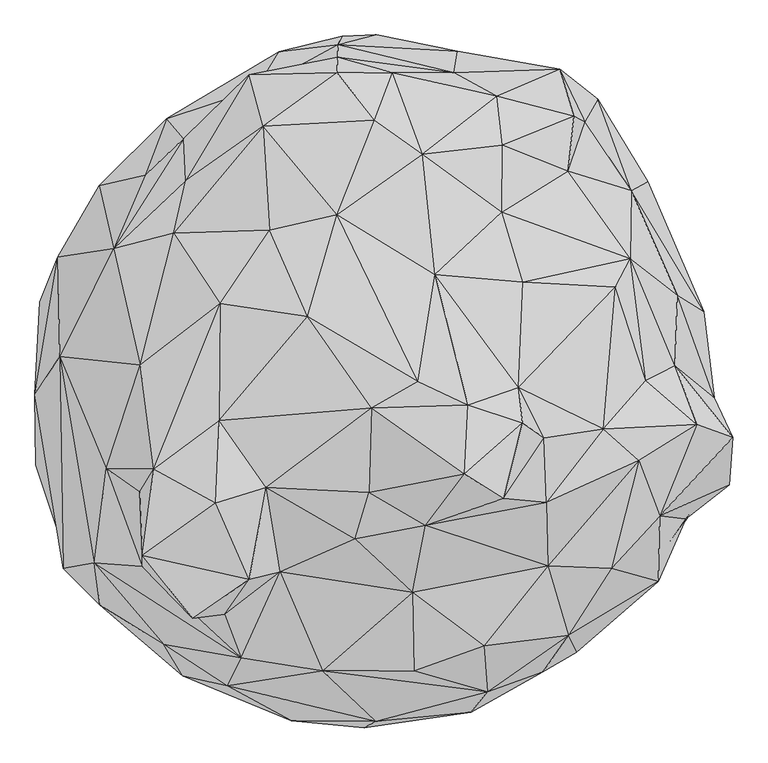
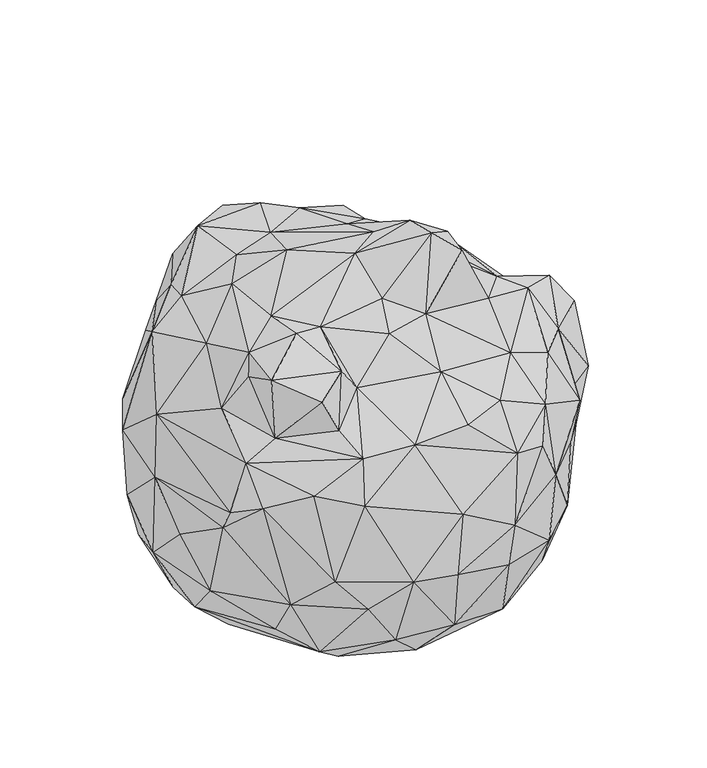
"""IFC4 building model written with IfcOpenShell, lengths in millimetres: geographic element geometry, Enscape AssetDefinition - Arbusto bergamota : Enscape AssetDefinition - Arbusto bergamota."""

from ifc_helpers import new_model, si_unit, origin, place, context, project, spatial, faceted_brep, source, transform, mapped, element, save


def geographic_element_441a0461(model_context):
    return source(origin(), model_context, "Body", "Brep", [
        faceted_brep([(-105.2601561, -28.5693128, 89.1784206), (351.4309525, -283.6348712, 89.1784206), (124.0314916, -560.6466532, 89.1784206), (318.775028, -494.7021008, 89.1784206), (547.9586124, -113.5061756, 124.9610558), (32.5179771, 87.5952095, 108.2453132), (492.4326539, 51.9201756, 119.3657815), (306.9058061, 164.5369679, 148.7726867), (-451.853931, -222.9770869, 89.1784206), (-323.3103454, 6.528866, 117.8776622), (-253.9109588, 231.2449813, 173.3419895), (96.4493379, 502.3676753, 287.2714102), (398.3728886, 302.4244905, 198.6569166), (528.7880898, 162.4510288, 188.4535253), (217.9729491, 468.8835442, 276.5121758), (433.9434206, 378.8322508, 256.6585839), (582.9179287, 137.1124238, 243.9075857), (553.1645417, 319.1808462, 477.6988328), (387.2309923, 488.0084693, 355.2014828), (453.6036849, 481.6354215, 459.8508179), (208.5562497, 567.3871636, 392.2279775), (519.8549628, 300.7309735, 652.2235274), (428.7678599, 437.5831187, 684.9549413), (378.9653182, 541.0971045, 599.296093), (663.4926796, 62.095888, 497.4622726), (610.6643677, 94.7214663, 691.4740205), (518.3807015, 166.9881493, 867.1563864), (395.0921595, 339.8443758, 846.0754752), (406.5063894, 447.75033, 805.4543138), (263.9187872, 258.190006, 999.5968938), (265.5953169, 390.5898631, 968.0803418), (254.7070086, 487.3097539, 901.3264179), (107.5943485, 373.4486401, 1024.9787569), (305.6846857, 120.407857, 1041.2199497), (132.0243478, 134.3938112, 1103.3511162), (48.2871756, 534.2789292, 900.2427459), (12.9358424, 440.439254, 1034.5642567), (-61.687801, 253.1278133, 1067.9037571), (169.0924019, 534.1949463, 740.0192022), (-62.0731153, 533.5091949, 995.1548576), (-60.6966205, 564.434588, 838.5232687), (-207.7213377, 428.5857081, 1037.0967388), (-235.0811362, 529.8271179, 883.7672472), (-59.3902208, 589.7865295, 571.0496306), (-221.4787006, 501.096189, 737.4671698), (176.4356345, 576.9364834, 503.1687021), (15.9888677, 608.7110639, 339.5411968), (-175.7944971, 575.7541656, 507.5290203), (-51.6826473, 606.7166328, 362.6465201), (-398.0822265, 443.5302317, 558.9955449), (-364.451617, 404.0802121, 836.0502124), (-350.5969048, 451.3650835, 323.7960935), (-379.3483973, 384.49049, 252.6728511), (-242.1100587, 405.133903, 239.7329956), (-489.0219867, 41.4399691, 117.5910234), (-482.4770689, 187.3279512, 168.5713679), (-511.8407011, 316.5095747, 344.7909057), (-577.2413611, 137.6276612, 229.9301177), (-649.7143507, 80.7337165, 434.099257), (-613.4263277, 169.2977846, 601.3714075), (-531.5375328, 311.1991584, 598.323226), (-550.7231951, -21.1760625, 126.9398481), (-657.9893827, -89.015007, 332.5797021), (-494.7306812, -249.8819232, 114.0236482), (-590.5103087, -215.0400281, 189.4625723), (-657.1249962, -241.2063926, 488.3911014), (-658.9413285, -102.1883786, 610.3795171), (-605.730772, -333.5597217, 324.0434527), (-473.1501341, -488.7545705, 232.3035896), (-359.6287668, -553.3409119, 151.5779048), (-464.1361237, -562.276721, 362.1035814), (-276.6965628, -694.0127015, 360.4328632), (-173.7965047, -679.4195175, 205.9086412), (-291.1151648, -543.2044864, 104.6266034), (-602.6112437, -404.207468, 591.680944), (-531.2308073, -517.5868869, 703.9736509), (-603.3813953, -445.7626343, 671.5275049), (-366.8398261, -657.9201818, 468.8018262), (-151.3676196, -747.6397157, 446.3497698), (-404.3633044, -596.4533687, 752.6420951), (-278.6365151, -678.4617901, 723.1909633), (-541.6181087, -435.3904724, 822.8362203), (-610.0322008, -26.6217701, 773.7239599), (-517.9601312, -247.9674071, 897.5357413), (-446.6502368, -441.9461191, 882.2063804), (-251.3543963, -622.3282218, 849.7861624), (-90.6281397, -648.94104, 861.1352444), (-174.2023528, -452.5500238, 975.1543999), (-283.9424908, -536.952436, 910.5573297), (15.7267861, -748.1036186, 632.1878433), (235.8129174, -689.6742582, 740.3567433), (87.7653211, -493.7577844, 965.7680392), (90.6678736, -648.4619379, 868.9294457), (228.7768573, -598.6692905, 877.7308464), (355.0652862, -441.1447048, 909.0740681), (113.1793633, -360.732466, 1086.4942074), (-25.5756695, -387.5850439, 1078.6304474), (395.3582346, -578.7526965, 792.6912904), (352.0194292, -316.0068393, 1030.6981802), (535.0852609, -232.749179, 953.640759), (480.7487726, -445.6331432, 868.7266707), (345.7383513, -650.2407193, 705.1380277), (411.6654396, -611.4211679, 553.4239411), (573.6766458, -471.7544019, 680.8344126), (576.4118433, -342.0718312, 858.6969972), (554.2343259, -454.5096457, 529.151082), (628.2150149, -348.5757113, 646.7782855), (649.256289, -161.304906, 915.4458046), (713.6251926, -281.1899483, 640.5485868), (720.4799652, -187.0390773, 815.5013919), (644.7967887, -326.9625306, 478.7489772), (505.5801272, -515.7830715, 352.5525033), (608.5842848, -278.2266736, 192.1887696), (707.9196572, -165.5638814, 513.3569241), (679.2342067, -236.6786301, 320.6457496), (684.0159893, -108.5413322, 523.691535), (606.3477993, -45.344431, 786.3062024), (658.6675644, -59.2821762, 363.2202446), (521.7918158, -335.9715939, 148.5762298), (413.8889313, -528.4305215, 194.4323182), (224.9049842, -624.0650415, 144.7802633), (387.968123, -615.0537133, 327.6661932), (187.9449934, -721.4872241, 374.0468919), (11.7107034, -704.5339346, 209.8300606), (-76.8712163, -632.994175, 108.3448827), (-160.6923491, -563.8871789, 89.1784206), (-7.8138327, -760.9157562, 431.7409396), (202.9266059, -730.8722138, 517.1408653), (548.4724641, -74.1566271, 890.6126618), (488.5540903, 110.6835455, 921.910882), (464.6656513, -170.797497, 983.4731817), (297.3507047, -88.2448405, 1105.5839062), (346.9978571, -187.8342628, 1079.7277689), (197.1339732, -123.1675521, 1248.1518984), (304.6805561, -158.5921049, 1193.9898729), (266.9937015, -307.7233136, 1228.7372351), (190.5332357, -259.2026293, 1289.1784906), (98.7129882, -76.8716633, 1214.7208452), (6.3020545, -128.7721992, 1199.5820999), (-120.2234626, 52.0617105, 1147.9047537), (-201.73271, -285.8868837, 1103.2605171), (1.5461576, -295.5750525, 1140.4008865), (-295.093298, -153.74735, 1096.5209007), (-301.7511964, -316.9399798, 1134.7595453), (-235.6548607, -467.5249457, 1066.439271), (-292.9944098, 77.395387, 1070.1932907), (-424.0333736, -249.5390177, 1068.2537556), (-446.4729726, -419.8971987, 1078.7303448), (-346.7393517, -545.2390909, 1040.3957367), (-451.903969, -295.2276766, 1017.8775787), (-450.8382082, -44.0130308, 984.2678905), (-503.4147501, 186.3541752, 904.8062563), (-384.9115372, 216.441974, 975.1856923), (-440.9982562, 331.605047, 801.207006), (-360.7186079, 320.7095861, 944.4285631), (-194.9538141, 223.2659608, 1052.7150631)], [[[0, 1, 2]], [[3, 1, 4]], [[5, 1, 0]], [[3, 2, 1]], [[1, 6, 4]], [[7, 6, 1]], [[1, 5, 7]], [[8, 9, 0]], [[8, 0, 2]], [[5, 0, 9]], [[10, 7, 5]], [[9, 10, 5]], [[10, 11, 7]], [[12, 7, 11]], [[12, 6, 7]], [[6, 12, 13]], [[6, 13, 4]], [[14, 15, 12]], [[12, 15, 13]], [[14, 12, 11]], [[15, 16, 13]], [[13, 16, 4]], [[15, 17, 16]], [[18, 15, 14]], [[15, 18, 19]], [[17, 15, 19]], [[11, 20, 14]], [[14, 20, 18]], [[18, 20, 19]], [[21, 17, 19]], [[22, 19, 23]], [[19, 22, 21]], [[20, 23, 19]], [[21, 24, 17]], [[16, 17, 24]], [[21, 25, 24]], [[26, 21, 27]], [[25, 21, 26]], [[27, 21, 22]], [[23, 28, 22]], [[22, 28, 27]], [[29, 27, 30]], [[27, 29, 26]], [[30, 27, 28]], [[31, 30, 28]], [[31, 28, 23]], [[32, 30, 31]], [[32, 29, 30]], [[29, 33, 26]], [[33, 29, 34]], [[34, 29, 32]], [[35, 32, 31]], [[35, 36, 32]], [[32, 36, 37]], [[32, 37, 34]], [[38, 35, 31]], [[31, 23, 38]], [[39, 35, 40]], [[39, 36, 35]], [[38, 40, 35]], [[36, 41, 37]], [[41, 36, 39]], [[42, 39, 40]], [[41, 39, 42]], [[43, 40, 38]], [[40, 43, 44]], [[40, 44, 42]], [[45, 38, 23]], [[38, 45, 43]], [[45, 23, 20]], [[43, 45, 46]], [[46, 45, 20]], [[43, 47, 44]], [[48, 47, 43]], [[46, 48, 43]], [[47, 49, 44]], [[50, 42, 44]], [[49, 50, 44]], [[48, 51, 47]], [[47, 51, 49]], [[51, 48, 52]], [[52, 48, 53]], [[46, 53, 48]], [[46, 11, 53]], [[20, 11, 46]], [[11, 10, 53]], [[53, 54, 55]], [[52, 53, 55]], [[53, 10, 54]], [[51, 52, 56]], [[57, 56, 52]], [[57, 52, 55]], [[51, 56, 49]], [[56, 58, 59]], [[57, 58, 56]], [[56, 60, 49]], [[60, 56, 59]], [[61, 57, 55]], [[57, 62, 58]], [[61, 62, 57]], [[54, 61, 55]], [[61, 63, 64]], [[64, 62, 61]], [[61, 54, 8]], [[61, 8, 63]], [[62, 65, 66]], [[62, 66, 58]], [[64, 67, 62]], [[62, 67, 65]], [[67, 64, 68]], [[68, 64, 69]], [[64, 63, 69]], [[63, 8, 69]], [[69, 70, 68]], [[71, 70, 69]], [[72, 71, 69]], [[69, 73, 72]], [[69, 8, 73]], [[68, 70, 67]], [[67, 70, 74]], [[67, 74, 65]], [[74, 66, 65]], [[74, 70, 75]], [[74, 76, 66]], [[75, 76, 74]], [[75, 70, 77]], [[70, 71, 77]], [[71, 78, 77]], [[72, 78, 71]], [[79, 77, 80]], [[78, 80, 77]], [[79, 75, 77]], [[79, 81, 75]], [[76, 75, 81]], [[66, 76, 82]], [[81, 82, 76]], [[83, 81, 84]], [[81, 85, 84]], [[81, 83, 82]], [[81, 79, 85]], [[79, 80, 85]], [[86, 87, 85]], [[80, 86, 85]], [[84, 85, 88]], [[85, 87, 88]], [[86, 89, 90]], [[91, 87, 86]], [[86, 92, 91]], [[80, 89, 86]], [[92, 86, 90]], [[91, 92, 93]], [[93, 92, 90]], [[94, 91, 93]], [[91, 94, 95]], [[96, 87, 91]], [[96, 91, 95]], [[93, 97, 94]], [[97, 93, 90]], [[94, 98, 95]], [[99, 98, 94]], [[94, 97, 100]], [[100, 99, 94]], [[97, 101, 102]], [[90, 101, 97]], [[102, 103, 97]], [[97, 103, 100]], [[104, 99, 100]], [[103, 104, 100]], [[105, 103, 102]], [[103, 105, 106]], [[103, 106, 104]], [[107, 99, 104]], [[108, 104, 106]], [[104, 108, 109]], [[104, 109, 107]], [[106, 105, 110]], [[108, 106, 110]], [[111, 110, 105]], [[105, 102, 111]], [[111, 112, 110]], [[113, 108, 110]], [[114, 113, 110]], [[110, 112, 114]], [[113, 109, 108]], [[115, 116, 109]], [[107, 109, 116]], [[109, 113, 115]], [[117, 113, 114]], [[117, 115, 113]], [[117, 114, 16]], [[114, 112, 4]], [[16, 114, 4]], [[118, 4, 112]], [[111, 118, 112]], [[118, 3, 4]], [[119, 118, 111]], [[3, 118, 119]], [[120, 3, 119]], [[2, 3, 120]], [[119, 121, 120]], [[111, 121, 119]], [[122, 123, 120]], [[124, 2, 120]], [[121, 122, 120]], [[123, 124, 120]], [[125, 2, 124]], [[125, 8, 2]], [[73, 125, 124]], [[72, 124, 123]], [[72, 73, 124]], [[125, 73, 8]], [[54, 9, 8]], [[10, 9, 54]], [[72, 123, 78]], [[123, 126, 78]], [[80, 78, 89]], [[89, 78, 126]], [[123, 122, 126]], [[122, 127, 126]], [[127, 89, 126]], [[90, 89, 127]], [[102, 127, 121]], [[101, 127, 102]], [[90, 127, 101]], [[121, 127, 122]], [[121, 111, 102]], [[117, 16, 24]], [[25, 115, 24]], [[115, 117, 24]], [[115, 25, 116]], [[116, 25, 26]], [[26, 128, 116]], [[128, 107, 116]], [[128, 26, 129]], [[26, 33, 129]], [[128, 130, 107]], [[129, 130, 128]], [[130, 99, 107]], [[130, 131, 132]], [[131, 130, 129]], [[132, 98, 130]], [[130, 98, 99]], [[33, 131, 129]], [[34, 131, 33]], [[34, 133, 131]], [[134, 132, 131]], [[133, 134, 131]], [[98, 132, 135]], [[134, 135, 132]], [[95, 98, 135]], [[135, 136, 95]], [[135, 134, 136]], [[136, 134, 133]], [[133, 34, 137]], [[138, 133, 137]], [[138, 136, 133]], [[37, 137, 34]], [[139, 138, 137]], [[137, 37, 139]], [[140, 141, 138]], [[141, 136, 138]], [[138, 139, 142]], [[138, 142, 140]], [[136, 141, 95]], [[141, 96, 95]], [[141, 140, 96]], [[140, 142, 143]], [[140, 87, 96]], [[144, 87, 140]], [[144, 140, 143]], [[145, 146, 142]], [[145, 142, 139]], [[142, 146, 143]], [[143, 147, 144]], [[143, 146, 147]], [[87, 144, 88]], [[88, 144, 148]], [[144, 147, 148]], [[84, 148, 147]], [[149, 84, 147]], [[147, 146, 149]], [[84, 88, 148]], [[84, 149, 83]], [[149, 146, 83]], [[145, 150, 146]], [[146, 150, 83]], [[83, 150, 82]], [[151, 82, 150]], [[145, 152, 150]], [[150, 152, 151]], [[59, 82, 151]], [[66, 82, 59]], [[59, 151, 60]], [[66, 59, 58]], [[153, 49, 60]], [[151, 153, 60]], [[49, 153, 50]], [[151, 50, 153]], [[50, 154, 42]], [[151, 154, 50]], [[154, 152, 41]], [[154, 41, 42]], [[152, 154, 151]], [[155, 41, 152]], [[37, 41, 155]], [[139, 37, 155]], [[139, 155, 145]], [[155, 152, 145]]]),
    ])


if __name__ == "__main__":
    model = new_model("IFC4")
    model_context = context("Model", 3, world=origin())
    ifc_project = project(units=[si_unit("LENGTHUNIT", "METRE", prefix="MILLI")], contexts=[model_context])
    site = spatial("IfcSite", under=ifc_project)
    building = spatial("IfcBuilding", under=site)
    placement = place(None, origin())
    geographic_element_shape = geographic_element_441a0461(model_context)
    element("IfcGeographicElement", 1, ObjectType="Enscape AssetDefinition - Arbusto bergamota : Enscape AssetDefinition - Arbusto bergamota", at=placement, inside=building, context=model_context, shape_type="MappedRepresentation", body=[
        mapped(geographic_element_shape, transform((0.0, 0.0, 0.0), x_axis=(1.0, 0.0, 0.0), y_axis=(0.0, 1.0, 0.0), z_axis=(0.0, 0.0, 1.0))),
    ])
    save(model, "model.ifc")
